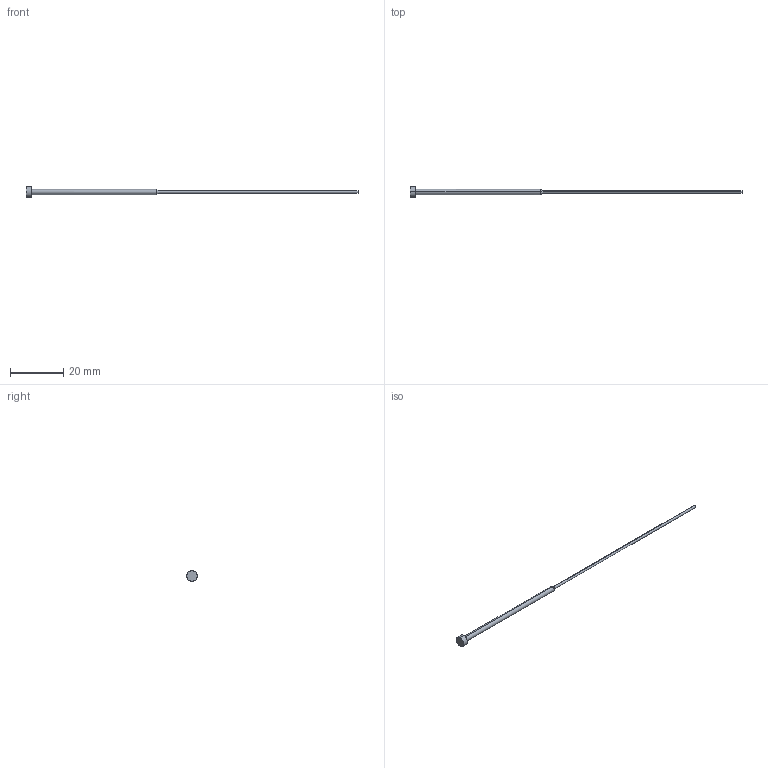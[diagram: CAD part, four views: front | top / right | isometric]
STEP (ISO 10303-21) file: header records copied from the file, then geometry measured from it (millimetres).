
FILE_DESCRIPTION(('CATIA V5 STEP Exchange'),'2;1');
FILE_NAME('C:\Users\Utente\Desktop\IO LAVORO\3D X SITO CF\X SITO\PLASTICA\359\359-1X2X125.stp','2021-05-14T18:22:53+00:00',('none'),('none'),'CATIA Version 5 Release 20 GA (IN-10)','CATIA V5 STEP AP203','none');
FILE_SCHEMA(('CONFIG_CONTROL_DESIGN'));
Length unit declared in the file: millimetre
Products named in the file (1): 359-1X2X125
Bounding box: 125 x 4 x 4 mm (x, y, z)
Volume: 233.8 mm3; surface area: 583.9 mm2
Topology: 1 solids, 1 shells, 13 faces, 38 edges, 28 vertices
Faces by surface type: cylinder 6, plane 3, cone 2, torus 2
Entity records: 530 total; most frequent: CARTESIAN_POINT 144, ORIENTED_EDGE 76, DIRECTION 58, AXIS2_PLACEMENT_3D 38, EDGE_CURVE 38, VERTEX_POINT 28, CIRCLE 24, EDGE_LOOP 14
